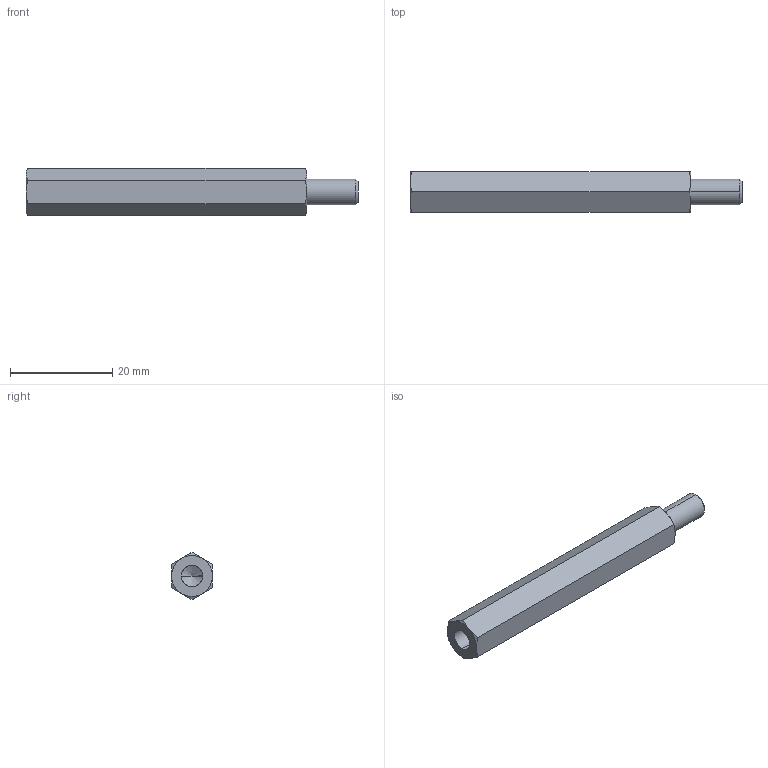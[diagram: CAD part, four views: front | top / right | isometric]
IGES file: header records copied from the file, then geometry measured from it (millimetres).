
Start section: SolidWorks IGES file using analytic representation for surfaces
Global section: file name: C:\Users\render1\Desktop\P0185_IGES\P0185.05-55.igs; native system: SolidWorks 2009; preprocessor: SolidWorks 2009; author: render1; date: 130627.112650; units: millimetre
Bounding box: 65 x 8 x 9.24 mm (x, y, z)
Surface area: 1917.1 mm2 (no closed solid volume)
Topology: 0 solids, 0 shells, 29 faces, 324 edges, 322 vertices
Faces by surface type: revolution 20, bspline 9
